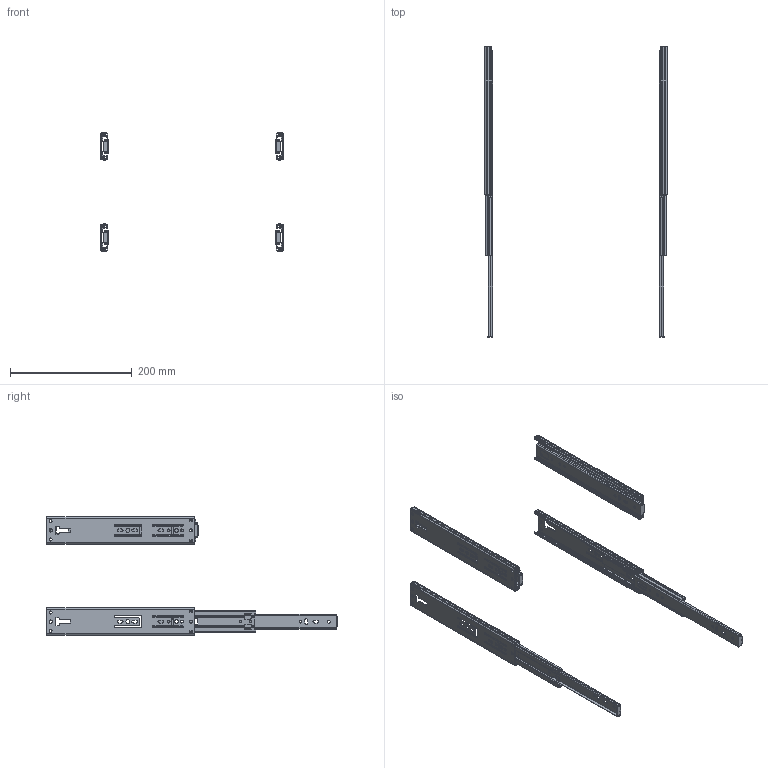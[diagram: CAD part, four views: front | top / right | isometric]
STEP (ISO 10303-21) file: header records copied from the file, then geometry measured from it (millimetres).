
FILE_DESCRIPTION( ( 'Unknown' ), '1' );
FILE_NAME( 'C:/Users/T190035/Desktop/新增資料夾/3D圖/38D58/250/38D58(250).stp', 'Unknown', ( 'Unknown' ), ( 'Unknown' ), 'PSStep 14.0', 'Unknown', ' ' );
FILE_SCHEMA( ( 'AUTOMOTIVE_DESIGN { 1 0 10303 214 1 1 1 1 }' ) );
Length unit declared in the file: millimetre
Products named in the file (7): Assem1; \X2\5916684\X0\; \X2\4E2D684\X0\; \X2\5167684\X0\; 外框_mir1; 中框_mir1; 內框_mir1
Assembly tree (12 placements, depth 2):
  Assem1
    \X2\5916684\X0\  x2
    \X2\4E2D684\X0\  x2
    \X2\5167684\X0\  x2
    外框_mir1  x2
    中框_mir1  x2
    內框_mir1  x2
Bounding box: 300 x 477.25 x 195.58 mm (x, y, z)
Volume: 165495.9 mm3; surface area: 276526.3 mm2
Topology: 12 solids, 12 shells, 1128 faces, 3380 edges, 2256 vertices
Faces by surface type: plane 592, cylinder 536
Full cylindrical faces by diameter (mm): 3.2 x8, 3.5 x4, 4.6 x20, 5 x12, 5.3 x4, 6.4 x8
Entity records: 23672 total; most frequent: DIRECTION 3328, CARTESIAN_POINT 3311, ORIENTED_EDGE 3268, EDGE_CURVE 1634, AXIS2_PLACEMENT_3D 1117, VERTEX_POINT 1100, LINE 1094, VECTOR 1094
